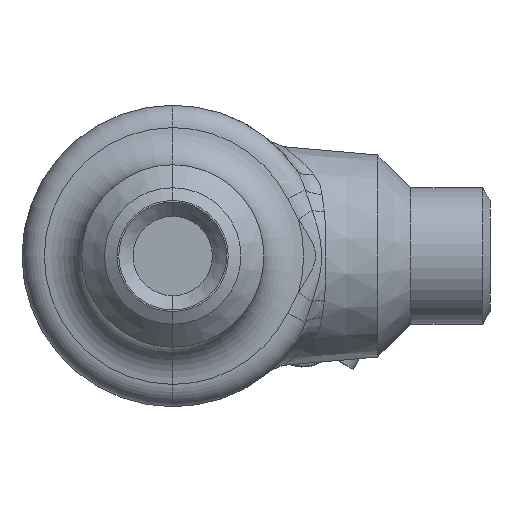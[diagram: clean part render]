
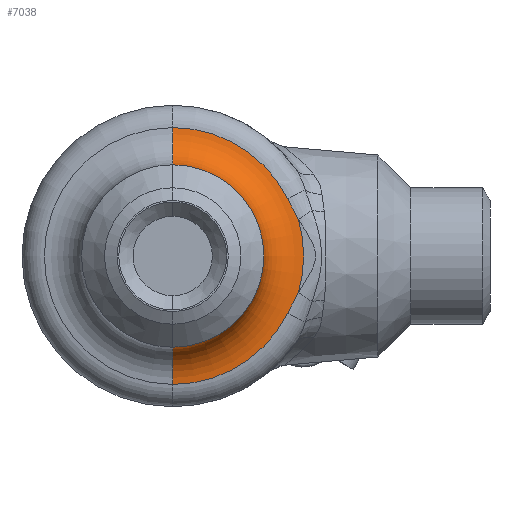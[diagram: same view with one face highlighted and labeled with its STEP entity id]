
A CAD part, front view. The second image highlights one B-rep face of the part: STEP entity #7038.
In plain terms, the highlighted toroidal (fillet/blend) face has major radius 16.5 mm and minor radius 5 mm.
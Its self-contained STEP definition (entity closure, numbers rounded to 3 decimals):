
#16924 = ORIENTED_EDGE ( 'NONE', *, *, #18122, .T. ) ;
#17749 = VERTEX_POINT ( 'NONE', #15633 ) ;
#18122 = EDGE_CURVE ( 'NONE', #2451, #19768, #15783, .T. ) ;
#2034 = CARTESIAN_POINT ( 'NONE',  ( 14.484, -52.01, 7.229 ) ) ;
#2167 = CARTESIAN_POINT ( 'NONE',  ( 14.484, -52.01, -7.229 ) ) ;
#2194 = B_SPLINE_CURVE_WITH_KNOTS ( 'NONE', 3,
 ( #2195, #2196, #2197, #2198 ),
 .UNSPECIFIED., .F., .F.,
 ( 4, 4 ),
 ( 0., 0.003 ),
 .UNSPECIFIED. ) ;
#2195 = CARTESIAN_POINT ( 'NONE',  ( 14.484, -52.01, -7.229 ) ) ;
#2196 = CARTESIAN_POINT ( 'NONE',  ( 14.925, -52.01, -6.344 ) ) ;
#2197 = CARTESIAN_POINT ( 'NONE',  ( 15.397, -52., -5.474 ) ) ;
#2198 = CARTESIAN_POINT ( 'NONE',  ( 15.848, -52., -4.594 ) ) ;
#2451 = VERTEX_POINT ( 'NONE', #2034 ) ;
#2466 = CIRCLE ( 'NONE', #2467, 16.188 ) ;
#2467 = AXIS2_PLACEMENT_3D ( 'NONE', #2468, #2469, #2470 ) ;
#2468 = CARTESIAN_POINT ( 'NONE',  ( 0., -52.01, 0. ) ) ;
#2469 = DIRECTION ( 'NONE',  ( 0., -1., 0. ) ) ;
#2470 = DIRECTION ( 'NONE',  ( 0., 0., -1. ) ) ;
#2714 = EDGE_CURVE ( 'NONE', #12057, #6823, #2194, .T. ) ;
#19768 = VERTEX_POINT ( 'NONE', #19926 ) ;
#19804 = VERTEX_POINT ( 'NONE', #19933 ) ;
#19926 = CARTESIAN_POINT ( 'NONE',  ( 0., -52.01, 16.187 ) ) ;
#19933 = CARTESIAN_POINT ( 'NONE',  ( 0., -57., -11.5 ) ) ;
#20196 = CIRCLE ( 'NONE', #20197, 5. ) ;
#20197 = AXIS2_PLACEMENT_3D ( 'NONE', #20198, #20199, #20200 ) ;
#20198 = CARTESIAN_POINT ( 'NONE',  ( 0., -57., -16.5 ) ) ;
#20199 = DIRECTION ( 'NONE',  ( 1., 0., 0. ) ) ;
#20200 = DIRECTION ( 'NONE',  ( 0., 0., -1. ) ) ;
#20212 = EDGE_CURVE ( 'NONE', #14579, #19804, #20196, .T. ) ;
#3847 = EDGE_CURVE ( 'NONE', #19804, #17749, #3921, .T. ) ;
#3921 = CIRCLE ( 'NONE', #3922, 11.5 ) ;
#3922 = AXIS2_PLACEMENT_3D ( 'NONE', #3926, #3927, #3928 ) ;
#3926 = CARTESIAN_POINT ( 'NONE',  ( 0., -57., 0. ) ) ;
#3927 = DIRECTION ( 'NONE',  ( 0., -1., 0. ) ) ;
#3928 = DIRECTION ( 'NONE',  ( 0., 0., 1. ) ) ;
#6786 = ORIENTED_EDGE ( 'NONE', *, *, #2714, .T. ) ;
#6823 = VERTEX_POINT ( 'NONE', #15037 ) ;
#7037 = VERTEX_POINT ( 'NONE', #15190 ) ;
#7038 = ADVANCED_FACE ( 'NONE', ( #15191 ), #15192, .F. ) ;
#7283 = EDGE_CURVE ( 'NONE', #7037, #6823, #15243, .T. ) ;
#8665 = ORIENTED_EDGE ( 'NONE', *, *, #20212, .F. ) ;
#9854 = ORIENTED_EDGE ( 'NONE', *, *, #12284, .T. ) ;
#11626 = ORIENTED_EDGE ( 'NONE', *, *, #3847, .F. ) ;
#12057 = VERTEX_POINT ( 'NONE', #2167 ) ;
#12284 = EDGE_CURVE ( 'NONE', #14579, #12057, #2466, .T. ) ;
#13573 = CARTESIAN_POINT ( 'NONE',  ( 0., -52.01, -16.187 ) ) ;
#14579 = VERTEX_POINT ( 'NONE', #13573 ) ;
#14622 = B_SPLINE_CURVE_WITH_KNOTS ( 'NONE', 3,
 ( #14623, #14624, #14625, #14626 ),
 .UNSPECIFIED., .F., .F.,
 ( 4, 4 ),
 ( 0.013, 0.016 ),
 .UNSPECIFIED. ) ;
#14623 = CARTESIAN_POINT ( 'NONE',  ( 15.848, -52., 4.594 ) ) ;
#14624 = CARTESIAN_POINT ( 'NONE',  ( 15.397, -52., 5.474 ) ) ;
#14625 = CARTESIAN_POINT ( 'NONE',  ( 14.925, -52.01, 6.344 ) ) ;
#14626 = CARTESIAN_POINT ( 'NONE',  ( 14.484, -52.01, 7.229 ) ) ;
#14943 = CIRCLE ( 'NONE', #14944, 5. ) ;
#14944 = AXIS2_PLACEMENT_3D ( 'NONE', #14945, #14946, #14947 ) ;
#14945 = CARTESIAN_POINT ( 'NONE',  ( 0., -57., 16.5 ) ) ;
#14946 = DIRECTION ( 'NONE',  ( -1., 0., 0. ) ) ;
#14947 = DIRECTION ( 'NONE',  ( 0., 0., 1. ) ) ;
#15037 = CARTESIAN_POINT ( 'NONE',  ( 15.848, -52., -4.594 ) ) ;
#15190 = CARTESIAN_POINT ( 'NONE',  ( 15.848, -52., 4.594 ) ) ;
#15191 = FACE_OUTER_BOUND ( 'NONE', #15678, .T. ) ;
#15192 = TOROIDAL_SURFACE ( 'NONE', #15193, 16.5, 5. ) ;
#15193 = AXIS2_PLACEMENT_3D ( 'NONE', #15194, #15195, #15196 ) ;
#15194 = CARTESIAN_POINT ( 'NONE',  ( 0., -57., 0. ) ) ;
#15195 = DIRECTION ( 'NONE',  ( 0., 1., 0. ) ) ;
#15196 = DIRECTION ( 'NONE',  ( 0., 0., 1. ) ) ;
#15243 = CIRCLE ( 'NONE', #15246, 16.5 ) ;
#15246 = AXIS2_PLACEMENT_3D ( 'NONE', #15247, #15248, #15249 ) ;
#15247 = CARTESIAN_POINT ( 'NONE',  ( 0., -52., 0. ) ) ;
#15248 = DIRECTION ( 'NONE',  ( 0., 1., 0. ) ) ;
#15249 = DIRECTION ( 'NONE',  ( 0., 0., 1. ) ) ;
#15285 = ORIENTED_EDGE ( 'NONE', *, *, #7283, .F. ) ;
#15633 = CARTESIAN_POINT ( 'NONE',  ( 0., -57., 11.5 ) ) ;
#15678 = EDGE_LOOP ( 'NONE', ( #8665, #9854, #6786, #15285, #15941, #16924, #16053, #11626 ) ) ;
#15783 = CIRCLE ( 'NONE', #15784, 16.188 ) ;
#15784 = AXIS2_PLACEMENT_3D ( 'NONE', #15785, #15786, #15787 ) ;
#15785 = CARTESIAN_POINT ( 'NONE',  ( 0., -52.01, 0. ) ) ;
#15786 = DIRECTION ( 'NONE',  ( 0., -1., 0. ) ) ;
#15787 = DIRECTION ( 'NONE',  ( 0., 0., -1. ) ) ;
#15812 = EDGE_CURVE ( 'NONE', #7037, #2451, #14622, .T. ) ;
#15941 = ORIENTED_EDGE ( 'NONE', *, *, #15812, .T. ) ;
#16053 = ORIENTED_EDGE ( 'NONE', *, *, #16105, .T. ) ;
#16105 = EDGE_CURVE ( 'NONE', #19768, #17749, #14943, .T. ) ;
